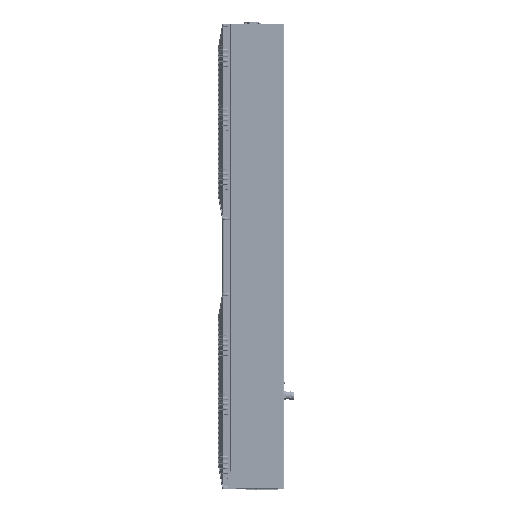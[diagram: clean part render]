
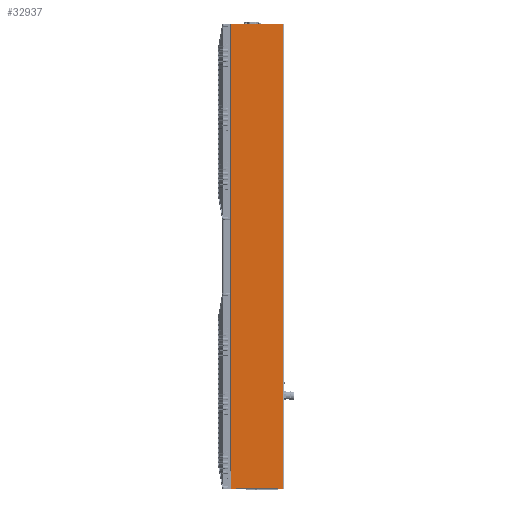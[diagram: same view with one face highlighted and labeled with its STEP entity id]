
A CAD part, left-side view. The second image highlights one B-rep face of the part: STEP entity #32937.
In plain terms, the highlighted planar face has unit normal (-1, 0, 0).
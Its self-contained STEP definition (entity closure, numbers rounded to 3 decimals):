
#12181=DIRECTION('',(0.,0.5,-0.866));
#12182=VECTOR('',#12181,2.309);
#12183=CARTESIAN_POINT('',(-197.5,138.,-672.));
#12184=LINE('',#12183,#12182);
#12185=DIRECTION('',(0.,1.,0.));
#12186=VECTOR('',#12185,13.345);
#12187=CARTESIAN_POINT('',(-197.5,139.155,-674.));
#12188=LINE('',#12187,#12186);
#12189=CARTESIAN_POINT('',(-197.5,152.5,-672.5));
#12190=DIRECTION('',(1.,0.,0.));
#12191=DIRECTION('',(0.,0.,-1.));
#12192=AXIS2_PLACEMENT_3D('',#12189,#12190,#12191);
#12194=DIRECTION('',(0.,0.,1.));
#12195=VECTOR('',#12194,47.923);
#12196=CARTESIAN_POINT('',(-197.5,154.,-672.5));
#12197=LINE('',#12196,#12195);
#12198=DIRECTION('',(0.,-0.866,0.5));
#12199=VECTOR('',#12198,1.155);
#12200=CARTESIAN_POINT('',(-197.5,154.,-624.577));
#12201=LINE('',#12200,#12199);
#12202=DIRECTION('',(0.,1.,0.));
#12203=VECTOR('',#12202,13.845);
#12204=CARTESIAN_POINT('',(-197.5,2.,-674.));
#12205=LINE('',#12204,#12203);
#12206=DIRECTION('',(0.,0.5,0.866));
#12207=VECTOR('',#12206,2.309);
#12208=CARTESIAN_POINT('',(-197.5,15.845,-674.));
#12209=LINE('',#12208,#12207);
#12278=DIRECTION('',(0.,0.,-1.));
#12279=VECTOR('',#12278,1299.);
#12280=CARTESIAN_POINT('',(-197.5,153.,675.));
#12281=LINE('',#12280,#12279);
#13186=DIRECTION('',(0.,1.,0.));
#13187=VECTOR('',#13186,151.);
#13188=CARTESIAN_POINT('',(-197.5,2.,675.));
#13189=LINE('',#13188,#13187);
#13215=DIRECTION('',(0.,0.,1.));
#13216=VECTOR('',#13215,1349.);
#13217=CARTESIAN_POINT('',(-197.5,2.,-674.));
#13218=LINE('',#13217,#13216);
#13263=DIRECTION('',(0.,-1.,0.));
#13264=VECTOR('',#13263,121.);
#13265=CARTESIAN_POINT('',(-197.5,138.,-672.));
#13266=LINE('',#13265,#13264);
#23717=CARTESIAN_POINT('',(-197.5,2.,-674.));
#23718=VERTEX_POINT('',#23717);
#23739=CARTESIAN_POINT('',(-197.5,138.,-672.));
#23740=CARTESIAN_POINT('',(-197.5,139.155,-674.));
#23741=VERTEX_POINT('',#23739);
#23742=VERTEX_POINT('',#23740);
#23743=CARTESIAN_POINT('',(-197.5,152.5,-674.));
#23744=VERTEX_POINT('',#23743);
#23745=CARTESIAN_POINT('',(-197.5,154.,-672.5));
#23746=VERTEX_POINT('',#23745);
#23747=CARTESIAN_POINT('',(-197.5,154.,-624.577));
#23748=VERTEX_POINT('',#23747);
#23749=CARTESIAN_POINT('',(-197.5,153.,-624.));
#23750=VERTEX_POINT('',#23749);
#23751=CARTESIAN_POINT('',(-197.5,153.,675.));
#23752=VERTEX_POINT('',#23751);
#23753=CARTESIAN_POINT('',(-197.5,2.,675.));
#23754=VERTEX_POINT('',#23753);
#23755=CARTESIAN_POINT('',(-197.5,15.845,-674.));
#23756=VERTEX_POINT('',#23755);
#23757=CARTESIAN_POINT('',(-197.5,17.,-672.));
#23758=VERTEX_POINT('',#23757);
#32909=CARTESIAN_POINT('',(-197.5,155.,-673.));
#32910=DIRECTION('',(-1.,0.,0.));
#32911=DIRECTION('',(0.,-1.,0.));
#32912=AXIS2_PLACEMENT_3D('',#32909,#32910,#32911);
#32913=PLANE('',#32912);
#32914=ORIENTED_EDGE('',*,*,#32899,.T.);
#32916=ORIENTED_EDGE('',*,*,#32915,.T.);
#32918=ORIENTED_EDGE('',*,*,#32917,.T.);
#32920=ORIENTED_EDGE('',*,*,#32919,.T.);
#32922=ORIENTED_EDGE('',*,*,#32921,.T.);
#32924=ORIENTED_EDGE('',*,*,#32923,.F.);
#32926=ORIENTED_EDGE('',*,*,#32925,.F.);
#32928=ORIENTED_EDGE('',*,*,#32927,.F.);
#32930=ORIENTED_EDGE('',*,*,#32929,.T.);
#32932=ORIENTED_EDGE('',*,*,#32931,.T.);
#32934=ORIENTED_EDGE('',*,*,#32933,.F.);
#32935=EDGE_LOOP('',(#32914,#32916,#32918,#32920,#32922,#32924,#32926,#32928,
#32930,#32932,#32934));
#32936=FACE_OUTER_BOUND('',#32935,.F.);
#32937=ADVANCED_FACE('',(#32936),#32913,.T.);
#12193=CIRCLE('',#12192,1.5);
#32899=EDGE_CURVE('',#23741,#23742,#12184,.T.);
#32915=EDGE_CURVE('',#23742,#23744,#12188,.T.);
#32917=EDGE_CURVE('',#23744,#23746,#12193,.T.);
#32919=EDGE_CURVE('',#23746,#23748,#12197,.T.);
#32921=EDGE_CURVE('',#23748,#23750,#12201,.T.);
#32923=EDGE_CURVE('',#23752,#23750,#12281,.T.);
#32925=EDGE_CURVE('',#23754,#23752,#13189,.T.);
#32927=EDGE_CURVE('',#23718,#23754,#13218,.T.);
#32929=EDGE_CURVE('',#23718,#23756,#12205,.T.);
#32931=EDGE_CURVE('',#23756,#23758,#12209,.T.);
#32933=EDGE_CURVE('',#23741,#23758,#13266,.T.);
